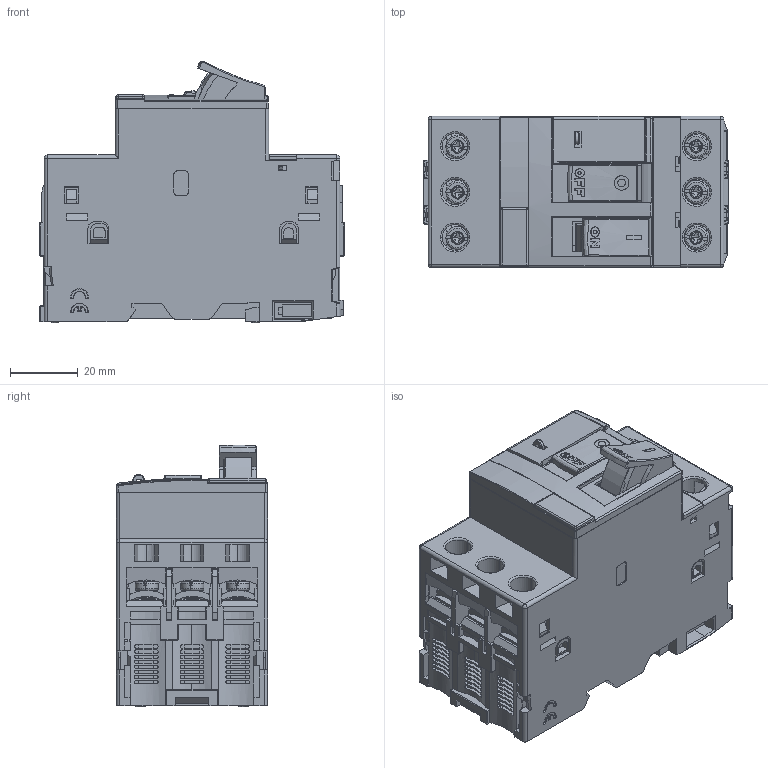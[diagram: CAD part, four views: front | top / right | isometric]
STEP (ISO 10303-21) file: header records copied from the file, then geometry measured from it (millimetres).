
FILE_DESCRIPTION((''),'2;1');
FILE_NAME('6666666666','2022-07-27T',('xujianyu'),(''),'PRO/ENGINEER BY PARAMETRIC TECHNOLOGY CORPORATION, 2017170','PRO/ENGINEER BY PARAMETRIC TECHNOLOGY CORPORATION, 2017170','');
FILE_SCHEMA(('CONFIG_CONTROL_DESIGN'));
Products named in the file (1): 6666666666
Bounding box: 90 x 44.7 x 77.41 mm (x, y, z)
Volume: 121065.4 mm3; surface area: 90296.9 mm2
Topology: 2 solids, 2 shells, 4760 faces, 14022 edges, 9084 vertices
Faces by surface type: plane 3401, cylinder 886, bspline 294, torus 111, sphere 50, cone 18
Entity records: 226330 total; most frequent: CARTESIAN_POINT 80764, ORIENTED_EDGE 27924, DIRECTION 23433, EDGE_CURVE 13962, VECTOR 10299, LINE 10299, VERTEX_POINT 9084, AXIS2_PLACEMENT_3D 6567
